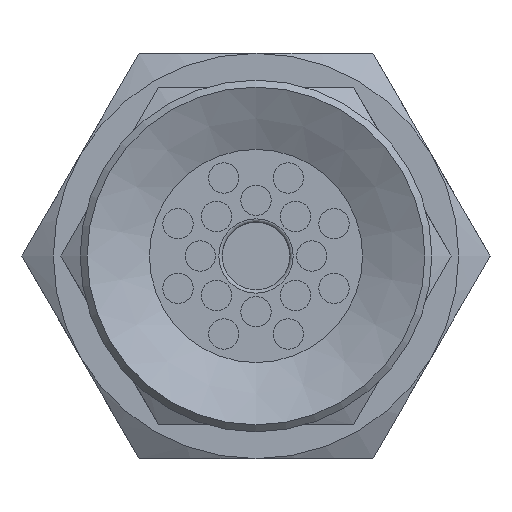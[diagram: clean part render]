
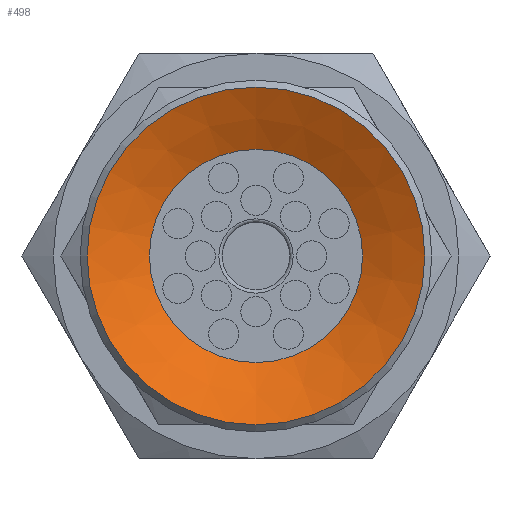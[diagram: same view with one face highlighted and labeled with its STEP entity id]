
A CAD part, front view. The second image highlights one B-rep face of the part: STEP entity #498.
In plain terms, the highlighted conical face has half-angle 64 degrees and reference radius 5 mm.
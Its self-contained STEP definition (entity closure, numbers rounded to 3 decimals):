
#498=ADVANCED_FACE('',(#788,#789),#790,.F.);
#788=FACE_BOUND('',#1171,.T.);
#789=FACE_OUTER_BOUND('',#1172,.T.);
#790=CONICAL_SURFACE('',#1173,5.0,1.117);
#1171=EDGE_LOOP('',(#2003));
#1172=EDGE_LOOP('',(#2004));
#1173=AXIS2_PLACEMENT_3D('',#2005,#2006,#2007);
#2003=ORIENTED_EDGE('',*,*,#2435,.T.);
#2004=ORIENTED_EDGE('',*,*,#2436,.F.);
#2005=CARTESIAN_POINT('',(0.0,0.,0.));
#2006=DIRECTION('',(0.0,0.,-1.0));
#2007=DIRECTION('',(0.0,1.0,0.));
#2435=EDGE_CURVE('',#2811,#2811,#2812,.T.);
#2436=EDGE_CURVE('',#2813,#2813,#2814,.T.);
#2811=VERTEX_POINT('',#3655);
#2812=CIRCLE('',#3656,3.155);
#2813=VERTEX_POINT('',#3657);
#2814=CIRCLE('',#3658,5.0);
#3655=CARTESIAN_POINT('',(0.0,-3.155,0.9));
#3656=AXIS2_PLACEMENT_3D('',#4020,#4021,#4022);
#3657=CARTESIAN_POINT('',(0.0,-5.0,0.));
#3658=AXIS2_PLACEMENT_3D('',#4023,#4024,#4025);
#4020=CARTESIAN_POINT('',(0.0,0.,0.9));
#4021=DIRECTION('',(0.0,0.,1.0));
#4022=DIRECTION('',(0.0,-1.0,0.));
#4023=CARTESIAN_POINT('',(0.0,0.,0.));
#4024=DIRECTION('',(0.0,0.,1.0));
#4025=DIRECTION('',(0.0,-1.0,0.));
